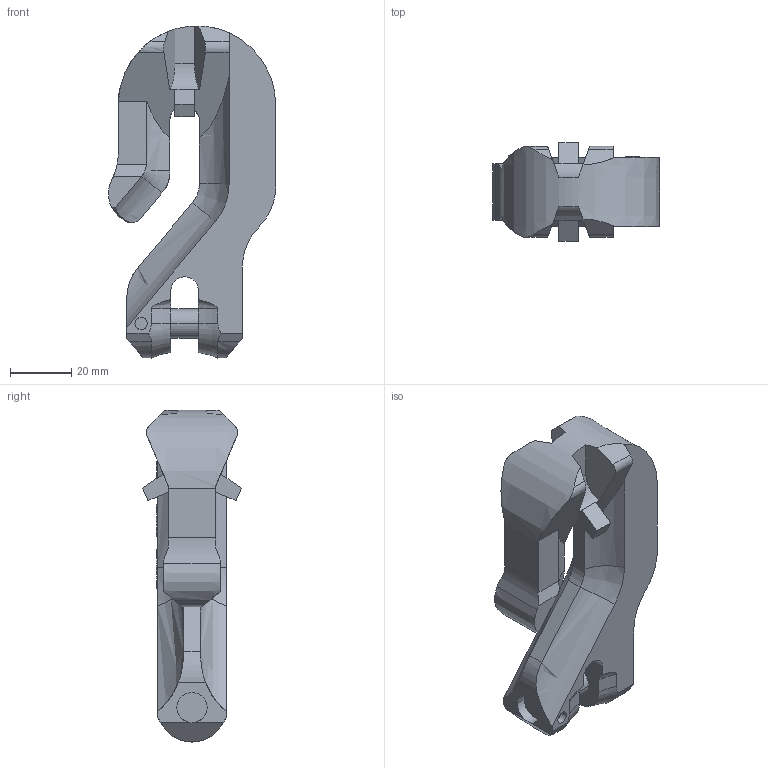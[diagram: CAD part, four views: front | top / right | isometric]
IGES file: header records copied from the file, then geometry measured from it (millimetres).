
Start section:  PTC IGES file: C:\Aktuell-Internet\CAD-Daten\3vvh8.igs
Global section: file name: C:\Aktuell-Internet\CAD-Daten\3vvh8.igs; native system: Pro/ENGINEER by Parametric Technology Corporation; preprocessor: 2001400; author: jakubetz; organization: Unknown; date: 030821.123223; units: millimetre
Bounding box: 54.4 x 32.13 x 107.99 mm (x, y, z)
Surface area: 16592.7 mm2 (no closed solid volume)
Topology: 0 solids, 0 shells, 335 faces, 1860 edges, 1860 vertices
Faces by surface type: bspline 283, revolution 52
